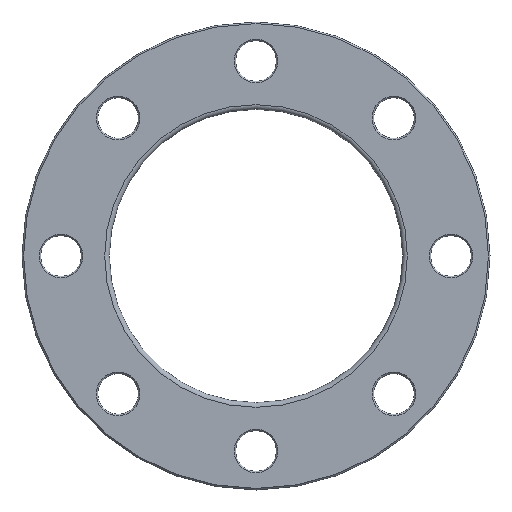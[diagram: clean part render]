
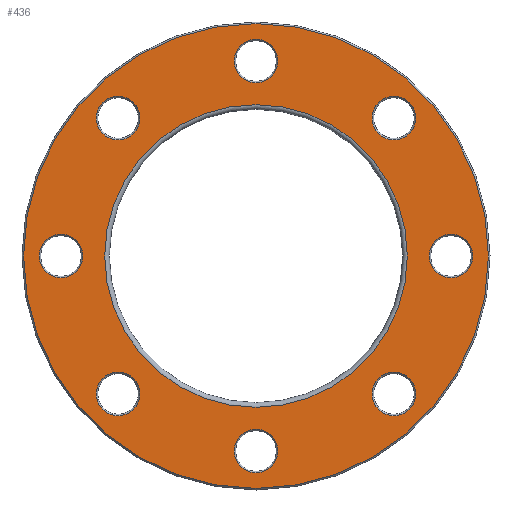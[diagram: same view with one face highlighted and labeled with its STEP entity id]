
A CAD part, front view. The second image highlights one B-rep face of the part: STEP entity #436.
In plain terms, the highlighted planar face has unit normal (0, -1, 0).
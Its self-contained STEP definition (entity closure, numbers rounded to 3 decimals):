
#23=PLANE('',#516);
#98=ORIENTED_EDGE('',*,*,#157,.T.);
#99=ORIENTED_EDGE('',*,*,#158,.T.);
#100=ORIENTED_EDGE('',*,*,#124,.T.);
#101=ORIENTED_EDGE('',*,*,#128,.T.);
#102=ORIENTED_EDGE('',*,*,#132,.T.);
#103=ORIENTED_EDGE('',*,*,#136,.T.);
#104=ORIENTED_EDGE('',*,*,#140,.T.);
#105=ORIENTED_EDGE('',*,*,#144,.T.);
#106=ORIENTED_EDGE('',*,*,#148,.T.);
#107=ORIENTED_EDGE('',*,*,#159,.T.);
#124=EDGE_CURVE('',#164,#164,#204,.T.);
#128=EDGE_CURVE('',#168,#168,#208,.T.);
#132=EDGE_CURVE('',#172,#172,#212,.T.);
#136=EDGE_CURVE('',#176,#176,#216,.T.);
#140=EDGE_CURVE('',#180,#180,#220,.T.);
#144=EDGE_CURVE('',#184,#184,#224,.T.);
#148=EDGE_CURVE('',#188,#188,#228,.T.);
#157=EDGE_CURVE('',#197,#197,#237,.F.);
#158=EDGE_CURVE('',#198,#198,#238,.T.);
#159=EDGE_CURVE('',#199,#199,#239,.T.);
#164=VERTEX_POINT('',#683);
#168=VERTEX_POINT('',#694);
#172=VERTEX_POINT('',#705);
#176=VERTEX_POINT('',#716);
#180=VERTEX_POINT('',#727);
#184=VERTEX_POINT('',#738);
#188=VERTEX_POINT('',#749);
#197=VERTEX_POINT('',#772);
#198=VERTEX_POINT('',#774);
#199=VERTEX_POINT('',#776);
#204=CIRCLE('',#461,14.);
#208=CIRCLE('',#468,14.);
#212=CIRCLE('',#475,14.);
#216=CIRCLE('',#482,14.);
#220=CIRCLE('',#489,14.);
#224=CIRCLE('',#496,14.);
#228=CIRCLE('',#503,14.);
#237=CIRCLE('',#517,149.);
#238=CIRCLE('',#518,97.);
#239=CIRCLE('',#519,14.);
#298=EDGE_LOOP('',(#98));
#299=EDGE_LOOP('',(#99));
#300=EDGE_LOOP('',(#100));
#301=EDGE_LOOP('',(#101));
#302=EDGE_LOOP('',(#102));
#303=EDGE_LOOP('',(#103));
#304=EDGE_LOOP('',(#104));
#305=EDGE_LOOP('',(#105));
#306=EDGE_LOOP('',(#106));
#307=EDGE_LOOP('',(#107));
#378=FACE_BOUND('',#298,.T.);
#379=FACE_BOUND('',#299,.T.);
#380=FACE_BOUND('',#300,.T.);
#381=FACE_BOUND('',#301,.T.);
#382=FACE_BOUND('',#302,.T.);
#383=FACE_BOUND('',#303,.T.);
#384=FACE_BOUND('',#304,.T.);
#385=FACE_BOUND('',#305,.T.);
#386=FACE_BOUND('',#306,.T.);
#387=FACE_BOUND('',#307,.T.);
#436=ADVANCED_FACE('',(#378,#379,#380,#381,#382,#383,#384,#385,#386,#387),
#23,.F.);
#461=AXIS2_PLACEMENT_3D('',#682,#539,#540);
#468=AXIS2_PLACEMENT_3D('',#693,#553,#554);
#475=AXIS2_PLACEMENT_3D('',#704,#567,#568);
#482=AXIS2_PLACEMENT_3D('',#715,#581,#582);
#489=AXIS2_PLACEMENT_3D('',#726,#595,#596);
#496=AXIS2_PLACEMENT_3D('',#737,#609,#610);
#503=AXIS2_PLACEMENT_3D('',#748,#623,#624);
#516=AXIS2_PLACEMENT_3D('',#770,#649,#650);
#517=AXIS2_PLACEMENT_3D('',#771,#651,#652);
#518=AXIS2_PLACEMENT_3D('',#773,#653,#654);
#519=AXIS2_PLACEMENT_3D('',#775,#655,#656);
#539=DIRECTION('',(0.,1.,0.));
#540=DIRECTION('',(0.707,0.,0.707));
#553=DIRECTION('',(0.,1.,0.));
#554=DIRECTION('',(0.,0.,1.));
#567=DIRECTION('',(0.,1.,0.));
#568=DIRECTION('',(-0.707,0.,0.707));
#581=DIRECTION('',(0.,1.,0.));
#582=DIRECTION('',(-1.,0.,0.));
#595=DIRECTION('',(0.,1.,0.));
#596=DIRECTION('',(-0.707,0.,-0.707));
#609=DIRECTION('',(0.,1.,0.));
#610=DIRECTION('',(0.,0.,-1.));
#623=DIRECTION('',(0.,1.,0.));
#624=DIRECTION('',(0.707,0.,-0.707));
#649=DIRECTION('',(0.,1.,0.));
#650=DIRECTION('',(0.,0.,1.));
#651=DIRECTION('',(0.,1.,0.));
#652=DIRECTION('',(0.,0.,1.));
#653=DIRECTION('',(0.,1.,0.));
#654=DIRECTION('',(0.,0.,1.));
#655=DIRECTION('',(0.,1.,0.));
#656=DIRECTION('',(1.,0.,0.));
#682=CARTESIAN_POINT('',(-88.388,0.,88.388));
#683=CARTESIAN_POINT('',(-78.489,0.,98.288));
#693=CARTESIAN_POINT('',(-125.,0.,0.));
#694=CARTESIAN_POINT('',(-125.,0.,14.));
#704=CARTESIAN_POINT('',(-88.388,0.,-88.388));
#705=CARTESIAN_POINT('',(-98.288,0.,-78.489));
#715=CARTESIAN_POINT('',(0.,0.,-125.));
#716=CARTESIAN_POINT('',(-14.,0.,-125.));
#726=CARTESIAN_POINT('',(88.388,0.,-88.388));
#727=CARTESIAN_POINT('',(78.489,0.,-98.288));
#737=CARTESIAN_POINT('',(125.,0.,0.));
#738=CARTESIAN_POINT('',(125.,0.,-14.));
#748=CARTESIAN_POINT('',(88.388,0.,88.388));
#749=CARTESIAN_POINT('',(98.288,0.,78.489));
#770=CARTESIAN_POINT('',(0.,0.,0.));
#771=CARTESIAN_POINT('',(0.,0.,0.));
#772=CARTESIAN_POINT('',(0.,0.,149.));
#773=CARTESIAN_POINT('',(0.,0.,0.));
#774=CARTESIAN_POINT('',(0.,0.,97.));
#775=CARTESIAN_POINT('',(0.,0.,125.));
#776=CARTESIAN_POINT('',(14.,0.,125.));
